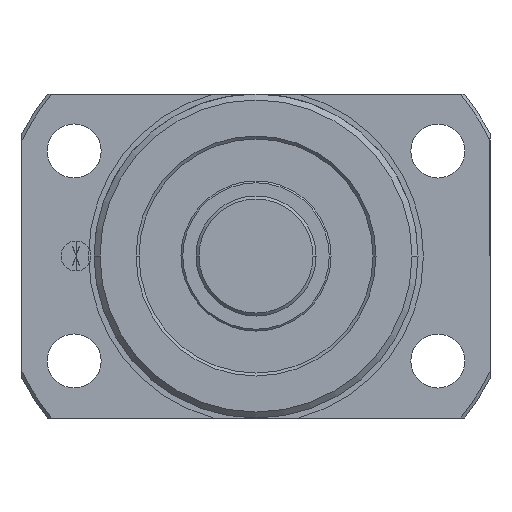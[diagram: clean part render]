
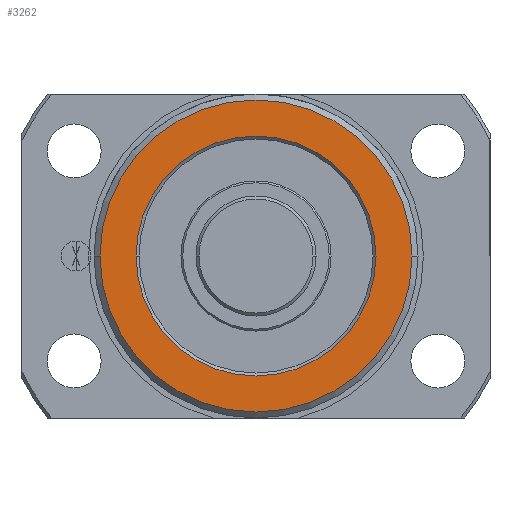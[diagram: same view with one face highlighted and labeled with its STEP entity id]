
A CAD part, left-side view. The second image highlights one B-rep face of the part: STEP entity #3262.
In plain terms, the highlighted planar face has unit normal (-1, 0, 0).
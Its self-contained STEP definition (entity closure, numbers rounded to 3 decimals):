
#467 = PLANE ( 'NONE',  #3394 ) ;
#484 = DIRECTION ( 'NONE',  ( -1., 0., 0. ) ) ;
#490 = CARTESIAN_POINT ( 'NONE',  ( -77., 20., 0. ) ) ;
#504 = DIRECTION ( 'NONE',  ( 0., -1., 0. ) ) ;
#1416 = EDGE_CURVE ( 'NONE', #4218, #4174, #3516, .T. ) ;
#1424 = EDGE_CURVE ( 'NONE', #3426, #3427, #3525, .T. ) ;
#1654 = CIRCLE ( 'NONE', #4034, 20. ) ;
#1655 = CIRCLE ( 'NONE', #4035, 26. ) ;
#2215 = DIRECTION ( 'NONE',  ( 0., 1., 0. ) ) ;
#2216 = DIRECTION ( 'NONE',  ( 1., 0., 0. ) ) ;
#2217 = CARTESIAN_POINT ( 'NONE',  ( -77., 0., 0. ) ) ;
#2756 = EDGE_LOOP ( 'NONE', ( #4829, #4847 ) ) ;
#2984 = CARTESIAN_POINT ( 'NONE',  ( -77., 0., 0. ) ) ;
#2985 = DIRECTION ( 'NONE',  ( 1., 0., 0. ) ) ;
#2986 = DIRECTION ( 'NONE',  ( 0., 1., 0. ) ) ;
#2989 = CARTESIAN_POINT ( 'NONE',  ( -77., 0., 0. ) ) ;
#2990 = DIRECTION ( 'NONE',  ( 1., 0., 0. ) ) ;
#2991 = DIRECTION ( 'NONE',  ( 0., 1., 0. ) ) ;
#3262 = ADVANCED_FACE ( 'NONE', ( #3651, #3652 ), #467, .T. ) ;
#3340 = AXIS2_PLACEMENT_3D ( 'NONE', #5903, #5904, #5905 ) ;
#3345 = AXIS2_PLACEMENT_3D ( 'NONE', #2217, #2216, #2215 ) ;
#3394 = AXIS2_PLACEMENT_3D ( 'NONE', #490, #484, #504 ) ;
#3426 = VERTEX_POINT ( 'NONE', #3786 ) ;
#3427 = VERTEX_POINT ( 'NONE', #3787 ) ;
#3516 = CIRCLE ( 'NONE', #3340, 26. ) ;
#3525 = CIRCLE ( 'NONE', #3345, 20. ) ;
#3651 = FACE_BOUND ( 'NONE', #5419, .T. ) ;
#3652 = FACE_OUTER_BOUND ( 'NONE', #2756, .T. ) ;
#3786 = CARTESIAN_POINT ( 'NONE',  ( -77., -20., 0. ) ) ;
#3787 = CARTESIAN_POINT ( 'NONE',  ( -77., 20., 0. ) ) ;
#3938 = CARTESIAN_POINT ( 'NONE',  ( -77., -26., 0. ) ) ;
#3981 = CARTESIAN_POINT ( 'NONE',  ( -77., 26., 0. ) ) ;
#4034 = AXIS2_PLACEMENT_3D ( 'NONE', #2984, #2985, #2986 ) ;
#4035 = AXIS2_PLACEMENT_3D ( 'NONE', #2989, #2990, #2991 ) ;
#4174 = VERTEX_POINT ( 'NONE', #3938 ) ;
#4218 = VERTEX_POINT ( 'NONE', #3981 ) ;
#4829 = ORIENTED_EDGE ( 'NONE', *, *, #1416, .F. ) ;
#4845 = ORIENTED_EDGE ( 'NONE', *, *, #1424, .T. ) ;
#4846 = ORIENTED_EDGE ( 'NONE', *, *, #5559, .T. ) ;
#4847 = ORIENTED_EDGE ( 'NONE', *, *, #5560, .F. ) ;
#5419 = EDGE_LOOP ( 'NONE', ( #4845, #4846 ) ) ;
#5559 = EDGE_CURVE ( 'NONE', #3427, #3426, #1654, .T. ) ;
#5560 = EDGE_CURVE ( 'NONE', #4174, #4218, #1655, .T. ) ;
#5903 = CARTESIAN_POINT ( 'NONE',  ( -77., 0., 0. ) ) ;
#5904 = DIRECTION ( 'NONE',  ( 1., 0., 0. ) ) ;
#5905 = DIRECTION ( 'NONE',  ( 0., 1., 0. ) ) ;
